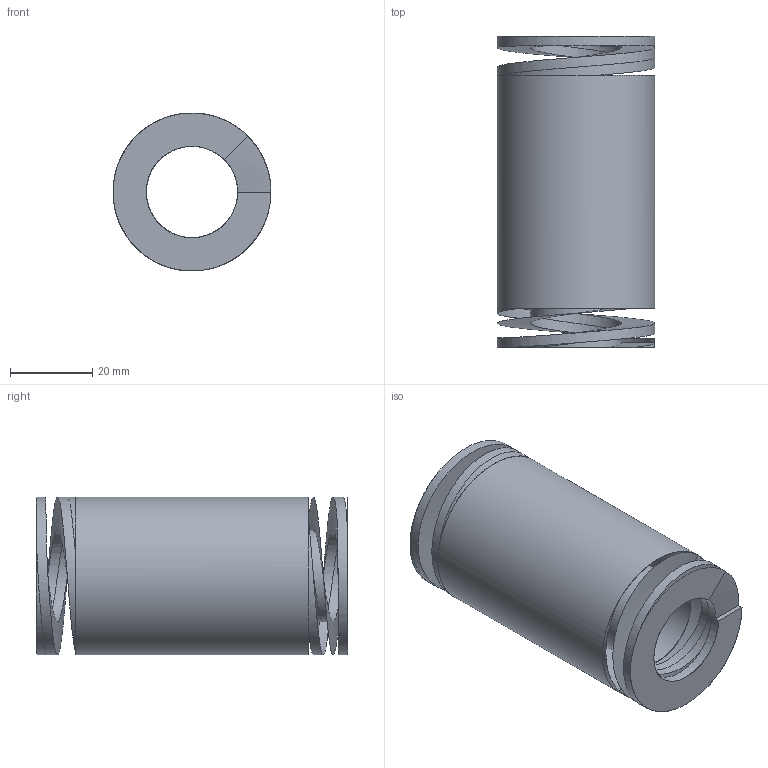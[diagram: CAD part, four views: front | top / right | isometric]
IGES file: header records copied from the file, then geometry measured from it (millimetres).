
Global section: file name: 2S38075; native system: Autodesk Inventor 2026; preprocessor: unknown; author: J. Iwanek; date: 20261007.113226; units: millimetre
Bounding box: 38.51 x 76 x 38.51 mm (x, y, z)
Volume: 53126.6 mm3; surface area: 18575 mm2
Topology: 1 solids, 1 shells, 22 faces, 68 edges, 43 vertices
Faces by surface type: bspline 22
